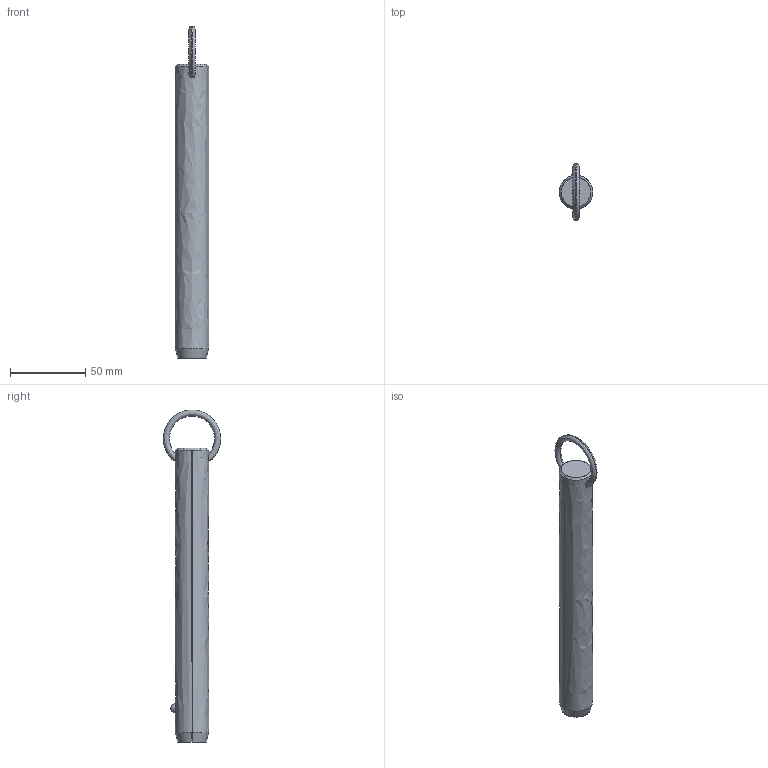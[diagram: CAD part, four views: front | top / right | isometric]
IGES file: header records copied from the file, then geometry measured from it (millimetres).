
Start section: SolidWorks IGES file using analytic representation for surfaces
Global section: file name: C:\Users\liam_\OneDrive\Documents\WORK\Work for WixRoyd\Job Files\J-00019 - Matt Davis CAD Checking\04. CAD Drawings\automotion20190605\P1250.2_v2\P1250.2_v2_20190729_IGES\P1250.087-620.igs; native system: SolidWorks 2017; preprocessor: SolidWorks 2017; author: liam_; date: 190730.074239; units: millimetre
Bounding box: 22.2 x 38.09 x 221 mm (x, y, z)
Surface area: 15285.6 mm2 (no closed solid volume)
Topology: 0 solids, 0 shells, 12 faces, 302 edges, 300 vertices
Faces by surface type: revolution 8, bspline 4
